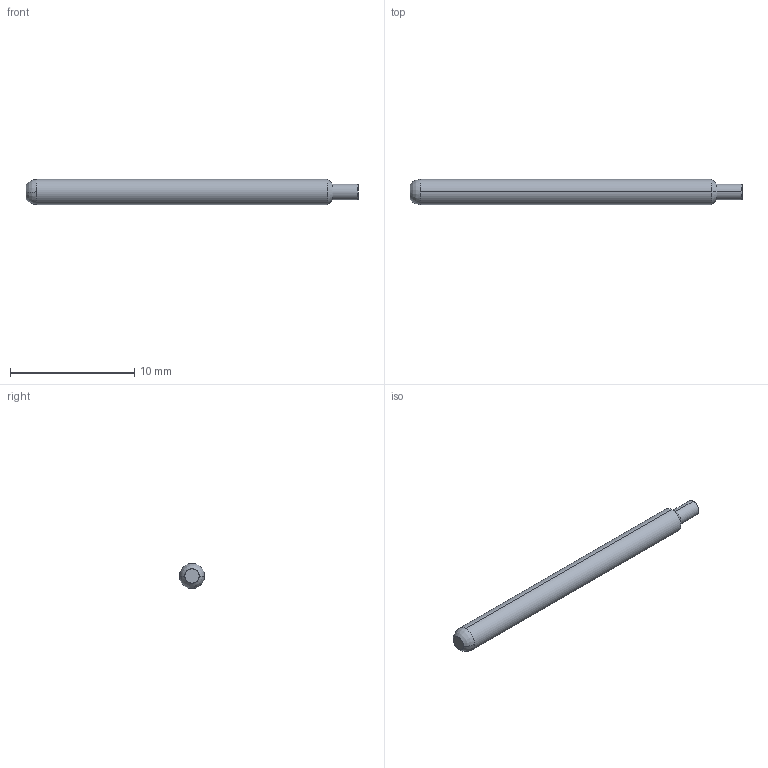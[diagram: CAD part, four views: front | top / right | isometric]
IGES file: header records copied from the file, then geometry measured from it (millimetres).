
Start section: SolidWorks IGES file using analytic representation for surfaces
Global section: file name: C:\Documents and Settings\mrumschlag\Desktop\changes\new\test\EPA-3C Full.IGS; native system: SolidWorks 2008; preprocessor: SolidWorks 2008; author: mrumschlag; date: 110414.162809; units: inch
Bounding box: 26.67 x 2.03 x 2.03 mm (x, y, z)
Surface area: 168 mm2 (no closed solid volume)
Topology: 0 solids, 0 shells, 10 faces, 68 edges, 68 vertices
Faces by surface type: revolution 8, bspline 2
